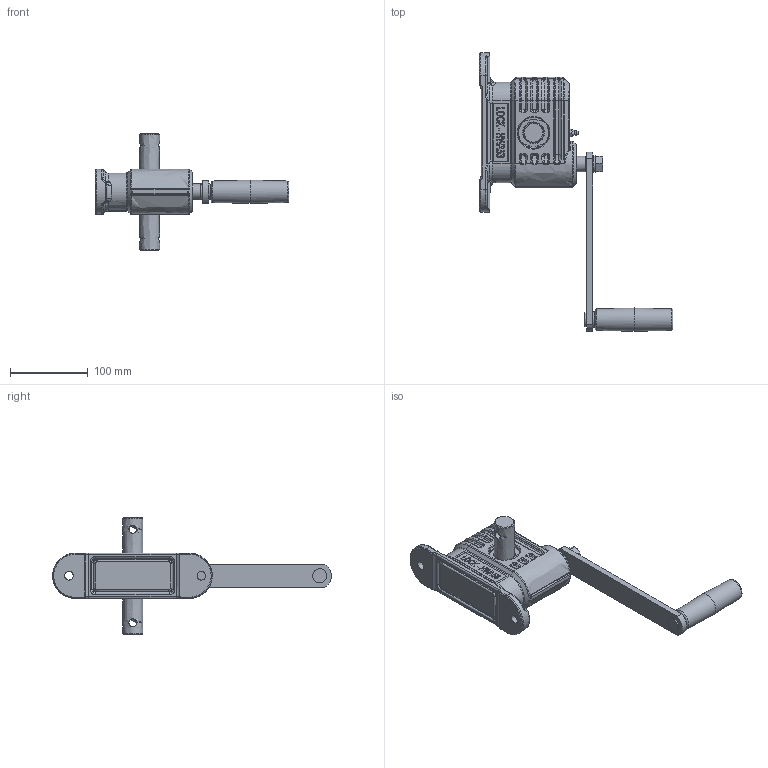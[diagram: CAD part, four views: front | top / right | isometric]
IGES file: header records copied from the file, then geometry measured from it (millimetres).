
Global section: file name: 52105_0401_06; native system: Autodesk Inventor 2022; preprocessor: unknown; author: Nesvadba; date: 20240222.170304; units: millimetre
Bounding box: 249 x 357.96 x 150 mm (x, y, z)
Volume: 531994.9 mm3; surface area: 184273 mm2
Topology: 20 solids, 21 shells, 2418 faces, 6274 edges, 4045 vertices
Faces by surface type: bspline 2418
